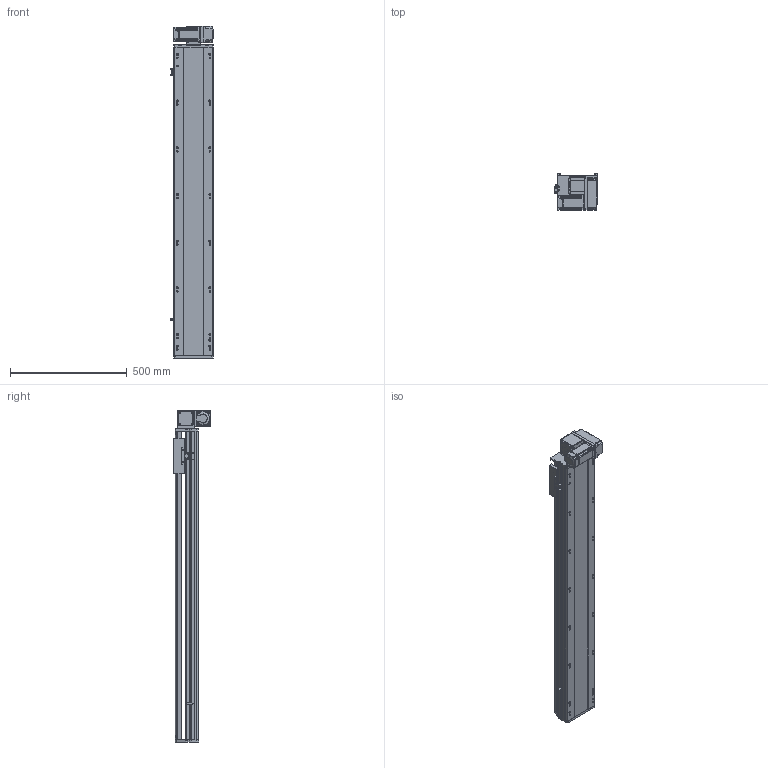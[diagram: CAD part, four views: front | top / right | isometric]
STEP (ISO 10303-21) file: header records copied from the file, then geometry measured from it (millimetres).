
FILE_DESCRIPTION (( 'STEP AP214' ), '1' );
FILE_NAME ('RTB17S-XX-1050-RM-M40-C4.STEP', '2025-12-11T08:16:47', ( '' ), ( '' ), 'SwSTEP 2.0', 'SolidWorks 2018', '' );
FILE_SCHEMA (( 'AUTOMOTIVE_DESIGN' ));
Length unit declared in the file: millimetre
Products named in the file (14): RTB14-L-005P--轴承塑胶压盖^RTB17S-RM-皮带座装配-400W_RTB17S-XX-XX-RM-M40-C4; RTB14-L-018P^RTB17S-RM-々湍釱蚾饜-400W_RTB17S-XX-XX-RM-M40-C4; RTB17S-L-014-T20--々湍釱^RTB17S-RM-々湍釱蚾饜-400W_RTB17S-XX-XX-RM-M40-C4; RTB14-L-017P^RTB17S-RM-々湍釱蚾饜-400W_RTB17S-XX-XX-RM-M40-C4; RTB14-L-008-M20--萇儂啣^RTB17S-RM-々湍釱蚾饜-400W_RTB17S-XX-XX-RM-M40-C4; RTB17S-L-001耜醱啣^RTB17S-XX-XX-RM-M40-C4; RTB17S-L-007奻裔^RTB17S-XX-XX-RM-M40-C4; RTH13-BL-012覜茼え俋离^RTB17S-XX-XX-RM-M40-C4; RTB17-R-011菁釱^RTB17S-XX-XX-RM-M40-C4; RTB17S-L-004佪裝蹟譫蟀諉釱^RTB17S-XX-XX-RM-M40-C4; RTB17S-XX-1050-RM-M40-C4; 400W侜督萇儂^RTB17S-XX-XX-RM-M40-C4; RTB17S-RM-々湍釱蚾饜-400W^RTB17S-XX-XX-RM-M40-C4; OMRON EE-SX672 传感器^RTB17S-XX-XX-RM-M40-C4
Assembly tree (16 placements, depth 3):
  RTB17S-XX-1050-RM-M40-C4
    RTB17-R-011菁釱^RTB17S-XX-XX-RM-M40-C4
    RTB17S-L-007奻裔^RTB17S-XX-XX-RM-M40-C4
    OMRON EE-SX672 传感器^RTB17S-XX-XX-RM-M40-C4  x3
    RTB17S-L-001耜醱啣^RTB17S-XX-XX-RM-M40-C4
    400W侜督萇儂^RTB17S-XX-XX-RM-M40-C4
    RTB17S-L-004佪裝蹟譫蟀諉釱^RTB17S-XX-XX-RM-M40-C4
    RTH13-BL-012覜茼え俋离^RTB17S-XX-XX-RM-M40-C4
    RTB17S-RM-々湍釱蚾饜-400W^RTB17S-XX-XX-RM-M40-C4
      RTB17S-L-014-T20--々湍釱^RTB17S-RM-々湍釱蚾饜-400W_RTB17S-XX-XX-RM-M40-C4
      RTB14-L-005P--轴承塑胶压盖^RTB17S-RM-皮带座装配-400W_RTB17S-XX-XX-RM-M40-C4
      RTB14-L-008-M20--萇儂啣^RTB17S-RM-々湍釱蚾饜-400W_RTB17S-XX-XX-RM-M40-C4
      RTB14-L-017P^RTB17S-RM-々湍釱蚾饜-400W_RTB17S-XX-XX-RM-M40-C4  x2
      RTB14-L-018P^RTB17S-RM-々湍釱蚾饜-400W_RTB17S-XX-XX-RM-M40-C4
Bounding box: 183.5 x 156.5 x 1422.5 mm (x, y, z)
Volume: 12776869.5 mm3; surface area: 1544328 mm2
Topology: 15 solids, 15 shells, 2221 faces, 6141 edges, 4005 vertices
Faces by surface type: plane 1070, cylinder 703, bspline 301, cone 139, torus 8
Entity records: 63401 total; most frequent: CARTESIAN_POINT 17746, ORIENTED_EDGE 9126, DIRECTION 8486, EDGE_CURVE 4563, VERTEX_POINT 2993, AXIS2_PLACEMENT_3D 2923, VECTOR 2640, LINE 2640
